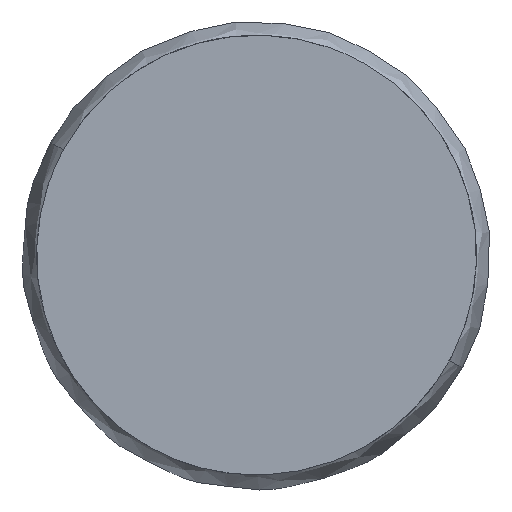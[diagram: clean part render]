
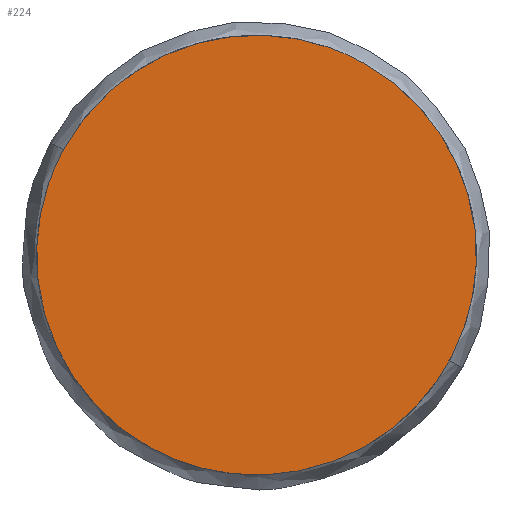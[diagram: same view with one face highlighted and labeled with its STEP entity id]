
A CAD part, left-side view. The second image highlights one B-rep face of the part: STEP entity #224.
In plain terms, the highlighted free-form (B-spline) face has degree [1, 1] with [2, 2] control points.
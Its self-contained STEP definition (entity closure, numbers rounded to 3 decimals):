
#224=ADVANCED_FACE('',(#445),#446,.T.);
#445=FACE_OUTER_BOUND('',#1548,.T.);
#446=B_SPLINE_SURFACE_WITH_KNOTS('',1,1,((#1549,#1550),(#1551,#1552)),.UNSPECIFIED.,.F.,.F.,.F.,(2,2),(2,2),(0.0,22.0),(0.0,22.0),.UNSPECIFIED.);
#1548=EDGE_LOOP('',(#2039,#2040,#2041));
#1549=CARTESIAN_POINT('',(-57.0,-11.0,-11.0));
#1550=CARTESIAN_POINT('',(-57.0,11.0,-11.0));
#1551=CARTESIAN_POINT('',(-57.0,-11.0,11.0));
#1552=CARTESIAN_POINT('',(-57.0,11.0,11.0));
#2039=ORIENTED_EDGE('',*,*,#2148,.F.);
#2040=ORIENTED_EDGE('',*,*,#2147,.F.);
#2041=ORIENTED_EDGE('',*,*,#2145,.F.);
#2145=EDGE_CURVE('',#2436,#2430,#2438,.T.);
#2147=EDGE_CURVE('',#2430,#2440,#2441,.T.);
#2148=EDGE_CURVE('',#2440,#2436,#2442,.T.);
#2430=VERTEX_POINT('',#2982);
#2436=VERTEX_POINT('',#2989);
#2438=(B_SPLINE_CURVE(2,(#2993,#2994,#2995,#2996,#2997),.UNSPECIFIED.,.F.,.F.)B_SPLINE_CURVE_WITH_KNOTS((3,2,3),(1.571,3.142,4.712),.UNSPECIFIED.)RATIONAL_B_SPLINE_CURVE((1.,0.707,1.0,0.707,1.))BOUNDED_CURVE()REPRESENTATION_ITEM('')GEOMETRIC_REPRESENTATION_ITEM()CURVE());
#2440=VERTEX_POINT('',#3005);
#2441=(B_SPLINE_CURVE(2,(#3007,#3008,#3009),.UNSPECIFIED.,.F.,.F.)B_SPLINE_CURVE_WITH_KNOTS((3,3),(4.712,6.283),.UNSPECIFIED.)RATIONAL_B_SPLINE_CURVE((1.,0.707,1.0))BOUNDED_CURVE()REPRESENTATION_ITEM('')GEOMETRIC_REPRESENTATION_ITEM()CURVE());
#2442=(B_SPLINE_CURVE(2,(#3017,#3018,#3019),.UNSPECIFIED.,.F.,.F.)B_SPLINE_CURVE_WITH_KNOTS((3,3),(0.,1.571),.UNSPECIFIED.)RATIONAL_B_SPLINE_CURVE((1.0,0.707,1.))BOUNDED_CURVE()REPRESENTATION_ITEM('')GEOMETRIC_REPRESENTATION_ITEM()CURVE());
#2982=CARTESIAN_POINT('',(-57.0,5.274,-9.653));
#2989=CARTESIAN_POINT('',(-57.0,-5.274,9.653));
#2993=CARTESIAN_POINT('',(-57.0,-5.274,9.653));
#2994=CARTESIAN_POINT('',(-57.0,-14.927,4.38));
#2995=CARTESIAN_POINT('',(-57.0,-9.653,-5.274));
#2996=CARTESIAN_POINT('',(-57.0,-4.38,-14.927));
#2997=CARTESIAN_POINT('',(-57.0,5.274,-9.653));
#3005=CARTESIAN_POINT('',(-57.0,9.653,5.274));
#3007=CARTESIAN_POINT('',(-57.0,5.274,-9.653));
#3008=CARTESIAN_POINT('',(-57.0,14.927,-4.38));
#3009=CARTESIAN_POINT('',(-57.0,9.653,5.274));
#3017=CARTESIAN_POINT('',(-57.0,9.653,5.274));
#3018=CARTESIAN_POINT('',(-57.0,4.38,14.927));
#3019=CARTESIAN_POINT('',(-57.0,-5.274,9.653));
